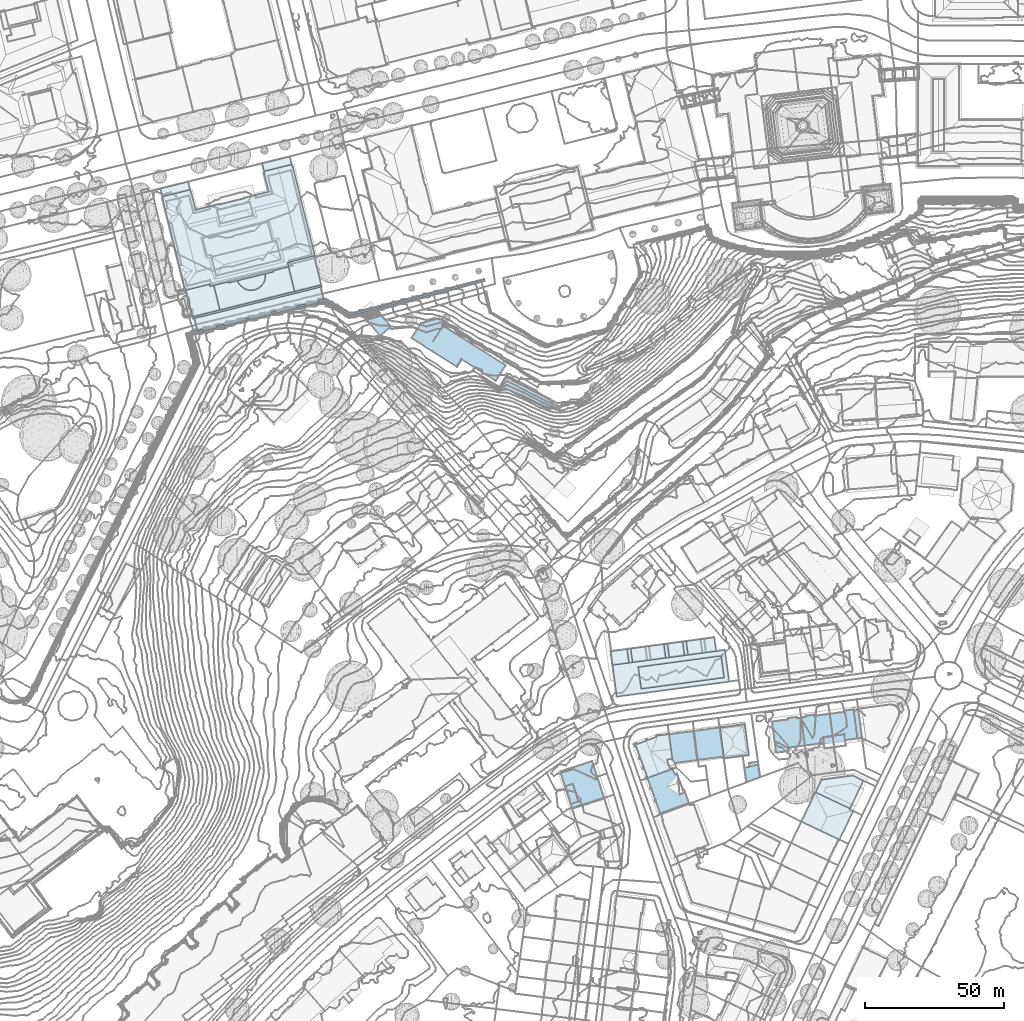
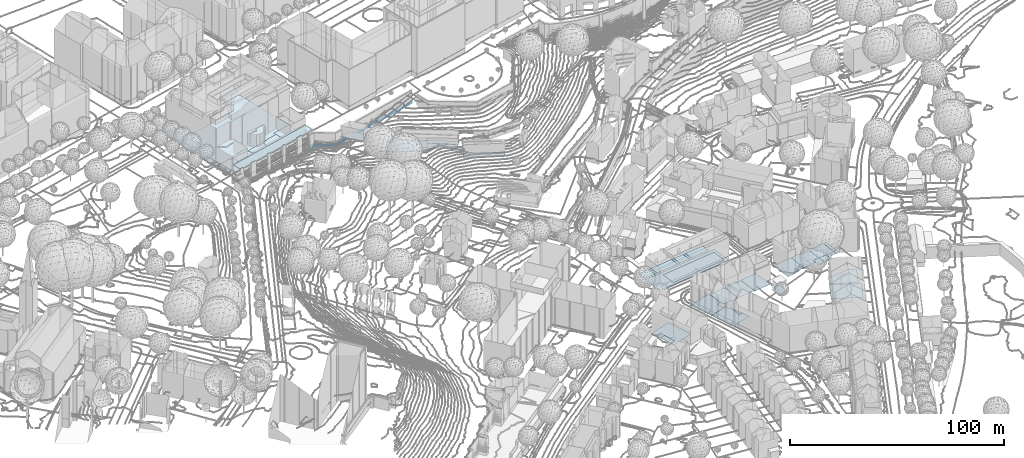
# Not in any storey, part 13 of 477: 17 footings.
"""IFC4 building model written with IfcOpenShell, lengths in metres."""

from ifc_helpers import new_model, si_unit, frame, origin_with_axes, place, context, subcontext, project, spatial, polygons, element, save


model = new_model("IFC4")

# Units and contexts
model_context = context("Model", 3, precision=1e-05, world=origin_with_axes())
body_context = subcontext(model_context, "Body", "Model", "MODEL_VIEW")
ifc_project = project(units=[si_unit("AREAUNIT", "SQUARE_METRE"), si_unit("LENGTHUNIT", "METRE")], contexts=[model_context])

# Sites, building
site_1_placement = place(None, origin_with_axes())
site_1 = spatial("IfcSite", under=ifc_project, at=site_1_placement, Name="Topoexport Site")
site_2_placement = place(site_1_placement, origin_with_axes())
site_2 = spatial("IfcSite", under=site_1, at=site_2_placement, Name="TPX_BUILDINGS")
building_1_placement = place(site_2_placement, frame((211.8297320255, 101.9383160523, 526.7541), z_axis=(0.0, 0.0, 1.0), x_axis=(1.0, 0.0, 0.0)))
building_1 = spatial("IfcBuilding", under=site_2, at=building_1_placement, Name="Building 18", CompositionType="ELEMENT")

# Footing
footing_1_placement = place(None, frame((211.8297320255, 101.9383160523, 526.7541), z_axis=(0.0, 0.0, 1.0), x_axis=(1.0, 0.0, 0.0)))
element("IfcFooting", 1, at=footing_1_placement, inside=building_1, Name="Floor 24", context=body_context, shape_type="Tessellation", body=[
    polygons([(157.3320000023, 217.1259999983, 6.3936), (169.6170000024, 220.9891999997, 6.3936), (205.8740000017, 229.5947000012, 6.3935), (205.7030000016, 230.2597000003, 6.3935), (157.4409999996, 217.8623000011, 6.3936), (148.7010000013, 222.3691000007, 6.3936), (148.6390000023, 223.2098999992, 6.3936), (146.1469999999, 221.753899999, 6.3936), (147.700000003, 222.9774999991, 6.3936), (145.9510000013, 222.5439000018, 6.3936)], [[[1, 2, 3]], [[4, 3, 2]], [[2, 1, 5]], [[5, 6, 7]], [[8, 9, 6]], [[5, 1, 6]], [[7, 6, 9]], [[9, 8, 10]]]),
])

# Building
building_2_placement = place(site_2_placement, frame((511.1767320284, 156.3465160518, 499.6435), z_axis=(0.0, 0.0, 1.0), x_axis=(1.0, 0.0, 0.0)))
building_2 = spatial("IfcBuilding", under=site_2, at=building_2_placement, Name="Building 19", CompositionType="ELEMENT")

# Footing
footing_2_placement = place(None, frame((511.1767320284, 156.3465160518, 499.6435), z_axis=(0.0, 0.0, 1.0), x_axis=(1.0, 0.0, 0.0)))
element("IfcFooting", 2, at=footing_2_placement, inside=building_2, Name="Floor 0", context=body_context, shape_type="Tessellation", body=[
    polygons([(4.936999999, 0.9834000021, 0.0), (1.8829999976, 0.2714999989, 0.0), (1.8469999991, 0.5243999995, 0.0), (4.7589999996, 2.067400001, 0.0), (1.8449999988, 0.5322000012, 0.0), (1.6939999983, 1.5859000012, 0.0), (5.5879999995, -3.4745999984, 0.0), (0.7419999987, -5.1475000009, 0.0), (0.0, 0.0, 0.0), (1.3649999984, -5.058600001, 0.0)], [[[1, 2, 3]], [[4, 5, 6]], [[5, 4, 1]], [[5, 1, 3]], [[7, 2, 1]], [[8, 9, 10]], [[2, 10, 9]], [[2, 7, 10]]]),
])

# Building
building_3_placement = place(site_2_placement, frame((541.9047320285, 175.7068160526, 499.9965), z_axis=(0.0, 0.0, 1.0), x_axis=(1.0, 0.0, 0.0)))
building_3 = spatial("IfcBuilding", under=site_2, at=building_3_placement, Name="Building 34", CompositionType="ELEMENT")

# Footing
footing_3_placement = place(None, frame((541.9047320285, 175.7068160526, 499.9965), z_axis=(0.0, 0.0, 1.0), x_axis=(1.0, 0.0, 0.0)))
element("IfcFooting", 3, at=footing_3_placement, inside=building_3, Name="Floor 0", context=body_context, shape_type="Tessellation", body=[
    polygons([(5.7719999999, -11.4081999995, -0.055), (1.057, -7.9266999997, -0.055), (5.231999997, -7.3680999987, -0.055), (1.5959999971, -11.9668000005, -0.055), (7.068, 1.4023999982, 0.0), (9.9579999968, -8.871100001, 0.0), (5.231999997, -7.3680999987, 0.0), (5.6139999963, 0.7481000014, 0.0), (8.5829999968, 1.6055000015, 0.0), (5.5539999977, 1.1992999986, 0.0), (5.5289999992, -9.4618999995, 0.0), (5.5399999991, -9.6748000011, 0.0), (2.8939999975, 0.3858000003, 0.0), (0.6689999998, -5.0166000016, 0.0), (0.0, 0.0, 0.0), (1.057, -7.9266999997, 0.0), (5.557, -9.6728000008, 0.0), (9.9580999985, -8.8709999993, -0.078), (8.5830999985, 1.6055000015, -0.0781), (8.6780999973, 1.1552999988, -0.0781), (10.2219999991, 1.8262000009, -0.078), (9.9959999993, 1.3321000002, -0.078), (11.6259999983, -8.6484000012, -0.078), (11.5799999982, -8.308600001, -0.078), (9.2049999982, 1.2256000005, -0.078), (8.6169999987, 1.6114000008, -0.078), (9.9729999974, 1.5058999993, -0.078), (9.9349999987, 1.7881000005, -0.078)], [[[1, 2, 3]], [[2, 1, 4]], [[5, 6, 7]], [[7, 8, 5]], [[9, 6, 5]], [[5, 8, 10]], [[6, 11, 7]], [[7, 11, 12]], [[13, 8, 7]], [[7, 14, 13]], [[15, 13, 14]], [[16, 14, 7]], [[11, 17, 12]], [[18, 19, 20]], [[21, 18, 22]], [[23, 18, 24]], [[18, 21, 24]], [[18, 20, 25]], [[20, 19, 26]], [[21, 27, 28]], [[21, 22, 27]], [[22, 18, 25]]]),
])

# Building
building_4_placement = place(site_2_placement, frame((531.628732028, 174.3367160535, 499.9965), z_axis=(0.0, 0.0, 1.0), x_axis=(1.0, 0.0, 0.0)))
building_4 = spatial("IfcBuilding", under=site_2, at=building_4_placement, Name="Building 35", CompositionType="ELEMENT")

# Footing
footing_4_placement = place(None, frame((531.628732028, 174.3367160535, 499.9965), z_axis=(0.0, 0.0, 1.0), x_axis=(1.0, 0.0, 0.0)))
element("IfcFooting", 4, at=footing_4_placement, inside=building_4, Name="Floor 0", context=body_context, shape_type="Tessellation", body=[
    polygons([(8.1779999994, -9.3271000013, 0.0), (7.4199999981, -9.2099000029, 0.0), (7.868999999, -7.0195000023, 0.0), (7.4489999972, -9.4248000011, 0.0), (4.117999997, -9.6504000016, 0.0), (10.2760000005, 1.370099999, 0.0), (4.6849999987, 0.623999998, 0.0), (11.3330000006, -6.5566000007, 0.0), (0.6779999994, -5.0175999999, 0.0), (1.3530000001, -10.0175999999, 0.0), (1.5920000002, 0.2118999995, 0.0), (4.6229999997, 1.0898999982, 0.0), (1.5299999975, 0.6777999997, 0.0), (0.0, 0.0, 0.0), (8.4100000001, -11.0595999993, -0.055), (7.868999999, -7.0195000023, -0.055), (11.8719999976, -10.5967000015, -0.055), (11.3330000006, -6.5566000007, -0.055)], [[[1, 2, 3]], [[2, 1, 4]], [[3, 2, 5]], [[6, 3, 7]], [[8, 3, 6]], [[9, 5, 10]], [[7, 3, 9]], [[7, 11, 12]], [[13, 12, 11]], [[11, 9, 14]], [[9, 11, 7]], [[3, 5, 9]], [[15, 16, 17]], [[18, 17, 16]]]),
])

# Building
building_5_placement = place(site_2_placement, frame((521.1327320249, 172.9256160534, 499.9965), z_axis=(0.0, 0.0, 1.0), x_axis=(1.0, 0.0, 0.0)))
building_5 = spatial("IfcBuilding", under=site_2, at=building_5_placement, Name="Building 36", CompositionType="ELEMENT")

# Footing
footing_5_placement = place(None, frame((521.1327320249, 172.9256160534, 499.9965), z_axis=(0.0, 0.0, 1.0), x_axis=(1.0, 0.0, 0.0)))
element("IfcFooting", 5, at=footing_5_placement, inside=building_5, Name="Floor 0", context=body_context, shape_type="Tessellation", body=[
    polygons([(10.0990000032, 1.3583999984, 0.0), (11.1740000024, -3.6064999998, 0.0), (8.9310000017, 1.2011999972, 0.0), (5.8390000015, 0.7850999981, 0.0), (8.870000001, 1.6561999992, 0.0), (5.7780000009, 1.2412, 0.0), (0.0, 0.0, 0.0), (5.7040000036, -9.4326000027, 0.0), (10.4960000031, 1.4111000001, 0.0), (1.325000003, -9.9365000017, 0.0), (6.6170000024, -9.3095999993, 0.0), (11.8490000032, -8.6064999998, 0.0), (5.8660000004, -10.6377000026, 0.0), (1.4970000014, -11.2217000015, 0.0), (5.7130000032, -9.5020000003, 0.0)], [[[1, 2, 3]], [[3, 2, 4]], [[5, 4, 6]], [[7, 4, 8]], [[3, 4, 5]], [[2, 1, 9]], [[10, 7, 8]], [[11, 8, 4]], [[11, 2, 12]], [[13, 14, 15]], [[14, 10, 15]], [[15, 10, 8]], [[2, 11, 4]]]),
])

# Building
building_6_placement = place(site_2_placement, frame((444.9497320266, 154.9236160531, 498.9646), z_axis=(0.0, 0.0, 1.0), x_axis=(1.0, 0.0, 0.0)))
building_6 = spatial("IfcBuilding", under=site_2, at=building_6_placement, Name="Building 70", CompositionType="ELEMENT")

# Footing
footing_6_placement = place(None, frame((444.9497320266, 154.9236160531, 498.9646), z_axis=(0.0, 0.0, 1.0), x_axis=(1.0, 0.0, 0.0)))
element("IfcFooting", 6, at=footing_6_placement, inside=building_6, Name="Floor 0", context=body_context, shape_type="Tessellation", body=[
    polygons([(11.2199999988, 3.7080000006, 0.0), (15.7390000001, -9.4306000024, 0.0), (4.5199999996, -4.4131000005, 0.0), (5.813000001, 1.9208999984, 0.0), (0.4070000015, 0.1338, 0.0), (1.8170000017, -5.2655999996, 0.0), (0.0, 0.0, 0.0), (3.8170000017, -11.6053999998, 0.0), (4.2390000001, -13.3515000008, 0.0), (11.4510000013, 3.7851999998, 0.0), (6.5199999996, -10.753899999, 0.0), (10.0920000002, -11.5058000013, 0.0), (10.0529999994, -11.5175000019, 0.0), (4.6229999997, -13.2303999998, 0.0), (15.4829999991, -9.8066000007, 0.0), (15.824000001, -9.6992000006, 0.0), (4.5199999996, -4.4131000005, -0.083), (6.5199999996, -10.753899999, -0.083), (1.8170000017, -5.2655999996, -0.083), (3.8170000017, -11.6053999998, -0.083)], [[[1, 2, 3]], [[1, 3, 4]], [[5, 4, 3]], [[3, 6, 5]], [[7, 5, 6]], [[6, 8, 7]], [[8, 9, 7]], [[1, 10, 2]], [[11, 12, 13]], [[3, 12, 11]], [[13, 14, 11]], [[15, 12, 2]], [[2, 16, 15]], [[14, 9, 8]], [[8, 11, 14]], [[2, 12, 3]], [[17, 18, 19]], [[19, 18, 20]]]),
])

# Building
building_7_placement = place(site_2_placement, frame((463.0307320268, 198.249816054, 500.4205), z_axis=(0.0, 0.0, 1.0), x_axis=(1.0, 0.0, 0.0)))
building_7 = spatial("IfcBuilding", under=site_2, at=building_7_placement, Name="Building 89", CompositionType="ELEMENT")

# Footing
footing_7_placement = place(None, frame((463.0307320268, 198.249816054, 500.4205), z_axis=(0.0, 0.0, 1.0), x_axis=(1.0, 0.0, 0.0)))
element("IfcFooting", 7, at=footing_7_placement, inside=building_7, Name="Floor 0", context=body_context, shape_type="Tessellation", body=[
    polygons([(40.8319999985, -9.4853000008, -0.6149), (39.7729999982, -1.6601999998, -0.6149), (42.6259999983, -10.9238000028, -0.615), (10.9860000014, -13.5215000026, -0.6149), (0.6629999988, -4.9492000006, -0.6149), (41.1009999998, 0.4667999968, -0.6149), (2.1889999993, -16.3369000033, -0.6149), (9.9279999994, -5.6982000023, -0.6149), (13.8040000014, 1.8524999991, 0.0), (19.8000000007, -2.3857000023, 0.0), (14.4679999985, -3.1006000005, 0.0), (19.1369999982, 2.5683999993, 0.0), (0.0, 0.0, 0.0), (5.9239999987, 0.7949000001, 0.0), (0.6629999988, -4.9492000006, 0.0), (6.5870000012, -4.1562000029, 0.0), (6.5870000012, -4.1562000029, -0.041), (5.9239999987, 0.7949000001, -0.041), (7.8759999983, -3.9834000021, -0.041), (7.2129999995, 0.9677999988, -0.041), (7.2129999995, 0.9677999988, 0.0), (13.1790000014, -3.2734000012, 0.0), (7.8759999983, -3.9834000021, 0.0), (12.5159999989, 1.6796999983, 0.0), (13.1790000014, -3.2734000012, -0.011), (12.5159999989, 1.6796999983, -0.011), (14.4679999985, -3.1006000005, -0.011), (13.8040000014, 1.8524999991, -0.011), (40.8319999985, -9.4853000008, -0.6539), (9.9279999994, -5.6982000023, -0.6539), (39.7729999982, -1.6601999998, -0.6539), (10.9860000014, -13.5215000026, -0.6539), (27.1909999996, 3.6483999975, 0.0), (37.300999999, 5.0058999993, 0.0), (27.8550000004, -1.3066000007, 0.0), (37.9649999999, 0.0468999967, 0.0), (27.1909999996, 3.6483999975, -0.056), (27.8550000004, -1.3066000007, -0.056), (25.9030000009, 3.4755999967, -0.056), (26.5670000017, -1.4805000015, -0.056), (20.425999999, 2.7412, 0.0), (26.5670000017, -1.4805000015, 0.0), (21.0890000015, -2.2129000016, 0.0), (25.9030000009, 3.4755999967, 0.0), (20.425999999, 2.7412, -0.046), (19.8000000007, -2.3857000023, -0.046), (19.1369999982, 2.5683999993, -0.046), (21.0890000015, -2.2129000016, -0.046)], [[[1, 2, 3]], [[3, 4, 1]], [[2, 5, 6]], [[6, 3, 2]], [[7, 8, 4]], [[4, 3, 7]], [[2, 8, 5]], [[8, 7, 5]], [[9, 10, 11]], [[10, 9, 12]], [[13, 14, 15]], [[16, 15, 14]], [[17, 18, 19]], [[20, 19, 18]], [[21, 22, 23]], [[22, 21, 24]], [[25, 26, 27]], [[28, 27, 26]], [[29, 30, 31]], [[30, 29, 32]], [[33, 34, 35]], [[36, 35, 34]], [[37, 38, 39]], [[40, 39, 38]], [[41, 42, 43]], [[42, 41, 44]], [[45, 46, 47]], [[46, 45, 48]]]),
])

# Building
building_8_placement = place(site_2_placement, frame((423.4767320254, 293.5516160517, 522.4066), z_axis=(0.0, 0.0, 1.0), x_axis=(1.0, 0.0, 0.0)))
building_8 = spatial("IfcBuilding", under=site_2, at=building_8_placement, Name="Building 104", CompositionType="ELEMENT")

# Footing
footing_8_placement = place(None, frame((423.4767320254, 293.5516160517, 522.4066), z_axis=(0.0, 0.0, 1.0), x_axis=(1.0, 0.0, 0.0)))
element("IfcFooting", 8, at=footing_8_placement, inside=building_8, Name="Floor 0", context=body_context, shape_type="Tessellation", body=[
    polygons([(17.6070000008, -8.4765999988, 0.0), (18.2609999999, -5.2245999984, 0.0), (18.9730000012, -5.6679999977, 0.0), (17.5970000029, -4.7608000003, 0.0), (13.950000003, -2.7333999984, 0.0), (16.2400000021, -3.9208999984, 0.0), (17.6620000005, -4.6279999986, 0.0), (0.0, 0.0, 0.0), (1.9079999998, 3.9648000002, 0.0), (13.1080000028, -1.6152999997, 0.0)], [[[1, 2, 3]], [[4, 2, 5]], [[4, 6, 7]], [[1, 5, 2]], [[5, 6, 4]], [[1, 8, 5]], [[9, 10, 5]], [[5, 8, 9]]]),
])

# Building
building_9_placement = place(site_2_placement, frame((300.9637320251, 364.7801160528, 537.8963), z_axis=(0.0, 0.0, 1.0), x_axis=(1.0, 0.0, 0.0)))
building_9 = spatial("IfcBuilding", under=site_2, at=building_9_placement, Name="Building 118", CompositionType="ELEMENT")

# Footing
footing_9_placement = place(None, frame((300.9637320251, 364.7801160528, 537.8963), z_axis=(0.0, 0.0, 1.0), x_axis=(1.0, 0.0, 0.0)))
element("IfcFooting", 9, at=footing_9_placement, inside=building_9, Name="Floor 0", context=body_context, shape_type="Tessellation", body=[
    polygons([(20.1130000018, -49.3916000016, -6.4714), (22.8430000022, -48.7158000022, -6.4714), (20.2660000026, -50.0067999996, -6.4714), (22.9970000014, -49.3379000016, -6.4714), (17.6770000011, -34.4316999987, -1.2229), (17.8630000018, -35.182599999, -1.2229), (9.1720000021, -36.5390999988, -1.2229), (21.4079999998, -43.6601999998, -1.2229), (11.568, -46.0986000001, -1.2229), (19.2240000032, -34.8456999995, -1.2229), (29.0160000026, -35.1084000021, -1.2769), (28.443, -34.4268000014, -1.2769), (37.6600000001, -32.3828000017, -1.2769), (37.4299999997, -33.2432000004, -1.2769), (30.074000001, -35.9199000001, -1.2769), (37.7380000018, -31.495099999, -1.2769), (27.9980000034, -33.6552999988, -1.2769), (31.7410000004, -36.5274000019, -1.2769), (30.881000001, -36.2978999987, -1.2769), (36.2420000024, -35.1084000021, -1.2769), (32.6290000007, -36.6055000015, -1.2769), (35.5590000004, -35.6816999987, -1.2769), (37.0540000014, -34.0507999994, -1.2769), (27.7990000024, -33.1084000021, -1.2769), (37.6650000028, -30.6640999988, -1.2769), (34.376000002, -36.2978999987, -1.2769), (33.5160000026, -36.5274000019, -1.2769), (24.5450000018, -33.5263999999, -1.1589), (24.6359999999, -33.8925999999, -1.1589), (19.2240000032, -34.8456999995, -1.1589), (28.443, -34.4268000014, -1.1589), (27.9980000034, -33.6552999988, -1.1589), (27.7990000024, -33.1084000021, -1.1589), (29.0160000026, -35.1084000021, -1.1589), (30.074000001, -35.9199000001, -1.1589), (21.4079999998, -43.6601999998, -1.1589), (30.881000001, -36.2978999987, -1.1589), (32.6290000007, -36.6055000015, -1.1589), (31.7410000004, -36.5274000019, -1.1589), (33.5160000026, -36.5274000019, -1.1589), (37.6650000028, -30.6640999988, -1.1589), (40.7200000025, -29.9072000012, -1.1589), (37.7380000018, -31.495099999, -1.1589), (46.1230000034, -28.1807000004, -1.1589), (37.6600000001, -32.3828000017, -1.1589), (40.6290000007, -29.5410000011, -1.1589), (37.4299999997, -33.2432000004, -1.1589), (35.5590000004, -35.6816999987, -1.1589), (48.307, -36.9941999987, -1.159), (34.376000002, -36.2978999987, -1.1589), (37.0540000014, -34.0507999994, -1.1589), (36.2420000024, -35.1084000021, -1.1589), (47.5240000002, 7.6875, -1.3419), (42.375, 7.4697000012, -1.3419), (47.2730000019, 8.683600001, -1.3419), (37.318, 6.2168000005, -1.3419), (37.5710000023, 5.1942999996, -1.3419), (38.9700000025, -1.1581999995, -1.3419), (38.8990000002, -0.870099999, -1.3419), (37.4010000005, 5.1552999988, -1.3419), (47.6920000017, 7.7285000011, -1.3419), (55.3100000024, -24.2030999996, -1.3419), (5.6190000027, -1.6376999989, -1.3418), (12.6469999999, -7.6621000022, -1.3419), (0.9510000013, -3.8330000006, -1.3418), (0.7080000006, -2.8544999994, -1.3418), (10.6750000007, -0.3858000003, -1.3418), (10.9240000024, -1.3925999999, -1.3419), (8.814000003, -36.1044999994, -1.3419), (0.7870000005, -3.8740000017, -1.3418), (12.5890000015, -7.4287, -1.3419), (11.0780000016, -1.3526000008, -1.3419), (9.0480000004, -36.0498000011, -1.3419), (21.318, -5.7001999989, -1.3419), (21.2770000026, -5.5459000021, -1.3419), (45.7240000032, -26.5703000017, -1.3419), (40.6290000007, -29.5410000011, -1.3419), (55.6980000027, -24.5331999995, -1.3419), (55.4079999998, -24.6026000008, -1.3419), (46.1230000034, -28.1807000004, -1.3419), (40.7200000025, -29.9072000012, -1.3419), (24.6359999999, -33.8925999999, -1.3419), (30.3940000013, -3.4512000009, -1.3419), (30.3570000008, -3.3018000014, -1.3419), (17.6770000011, -34.4316999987, -1.3419), (24.5450000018, -33.5263999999, -1.3419), (9.1710000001, -36.5390000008, -1.3419), (17.8630000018, -35.182599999, -1.3419), (47.2730000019, 8.683600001, 0.7599), (42.375, 7.4697000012, 0.7599), (46.5520000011, 11.5449000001, 0.7599), (37.318, 6.2168000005, 0.7599), (36.6130000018, 9.0566000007, 0.7599), (0.0, 0.0, 0.0), (5.6190000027, -1.6376999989, 0.0), (0.7080000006, -2.8544999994, 0.0), (9.9670000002, 2.4765000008, 0.0), (10.6750000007, -0.3858000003, 0.0), (48.307, -36.9941999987, -1.4109), (55.3100000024, -24.2030999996, -1.4109), (57.8670000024, -34.625, -1.4109), (45.7240000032, -26.5703000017, -1.4109), (58.0370000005, -35.316399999, 4.4505), (58.0490000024, -35.3662, 4.4505), (57.6660000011, -35.4618999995, 4.4505), (12.2490000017, -46.6631000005, 4.4505), (41.501000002, -44.8115000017, 4.4505), (41.3330000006, -44.1338, 4.4505), (49.0950000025, -42.2100000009, 4.4505), (39.9640000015, -44.4736000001, 4.4505), (32.0270000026, -46.4395000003, 4.4505), (51.9470000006, -41.503899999, 4.4505), (56.8170000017, -40.2978999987, 4.4505), (58.7060000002, -39.8291000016, 4.4505), (56.9960000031, -41.0205000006, 4.4505), (52.1220000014, -42.2118999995, 4.4505), (49.2690000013, -42.9101999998, 4.4505), (22.8430000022, -48.7158000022, 4.4505), (30.6230000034, -46.7871000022, 4.4505), (20.1130000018, -49.3916000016, 4.4505), (15.2039999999, -50.6074000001, 4.4505), (13.3270000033, -51.072300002, 4.4505), (15.3530000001, -51.2080000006, 4.4505), (32.188000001, -47.0899000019, 4.4505), (40.131000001, -45.1464999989, 4.4505), (20.2660000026, -50.0067999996, 4.4505), (22.9970000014, -49.3379000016, 4.4505), (30.7829999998, -47.433600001, 4.4505), (30.6230000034, -46.7871000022, -6.4714), (32.0270000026, -46.4395000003, -6.4714), (30.7829999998, -47.433600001, -6.4714), (32.188000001, -47.0899000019, -6.4714), (13.3320000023, -51.0713, -6.4714), (15.2039999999, -50.6074000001, -6.4714), (13.4780000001, -51.6669999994, -6.4714), (15.3530000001, -51.2080000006, -6.4714), (11.7280000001, -46.7373000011, -6.4714), (11.568, -46.0986000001, -6.4714), (57.8670000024, -34.625, -6.4714), (58.0370000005, -35.316399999, -6.4714), (12.2380000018, -46.6172000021, -6.4714), (12.2490000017, -46.6631000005, -6.4714), (39.9640000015, -44.4736000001, -6.4714), (41.3330000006, -44.1338, -6.4714), (40.131000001, -45.1464999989, -6.4714), (41.501000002, -44.8115000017, -6.4714), (56.8170000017, -40.2978999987, -6.4715), (58.0329999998, -40.7666000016, -6.4715), (56.9960000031, -41.0205000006, -6.4715), (58.7060000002, -39.8291000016, -6.4715), (58.8509999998, -40.4404000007, -6.4715), (49.0950000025, -42.2100000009, -6.4714), (51.9470000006, -41.503899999, -6.4715), (49.2690000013, -42.9101999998, -6.4715), (52.1220000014, -42.2118999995, -6.4715)], [[[1, 2, 3]], [[4, 3, 2]], [[5, 6, 7]], [[8, 9, 6]], [[6, 10, 8]], [[9, 7, 6]], [[11, 12, 13]], [[14, 15, 11]], [[16, 12, 17]], [[18, 19, 20]], [[21, 18, 22]], [[19, 15, 23]], [[24, 25, 17]], [[11, 13, 14]], [[13, 12, 16]], [[23, 15, 14]], [[21, 26, 27]], [[26, 21, 22]], [[20, 22, 18]], [[20, 19, 23]], [[17, 25, 16]], [[28, 29, 30]], [[29, 31, 30]], [[31, 29, 32]], [[32, 29, 33]], [[31, 34, 30]], [[35, 36, 30]], [[30, 34, 35]], [[35, 37, 36]], [[38, 36, 39]], [[39, 36, 37]], [[38, 40, 36]], [[41, 42, 43]], [[43, 44, 45]], [[44, 42, 46]], [[44, 43, 42]], [[44, 47, 45]], [[48, 49, 50]], [[50, 49, 40]], [[44, 51, 47]], [[49, 48, 52]], [[52, 51, 49]], [[49, 51, 44]], [[49, 36, 40]], [[53, 54, 55]], [[56, 54, 57]], [[54, 58, 59]], [[59, 57, 54]], [[60, 57, 59]], [[61, 62, 53]], [[54, 53, 58]], [[63, 64, 65]], [[66, 63, 65]], [[67, 68, 63]], [[69, 70, 65]], [[71, 63, 68]], [[72, 71, 68]], [[64, 63, 71]], [[64, 73, 65]], [[74, 64, 75]], [[58, 53, 62]], [[76, 77, 58]], [[58, 62, 76]], [[78, 79, 62]], [[61, 78, 62]], [[76, 80, 77]], [[81, 82, 77]], [[77, 83, 58]], [[84, 58, 83]], [[69, 65, 73]], [[64, 85, 73]], [[86, 64, 74]], [[83, 86, 74]], [[83, 77, 86]], [[87, 73, 85]], [[85, 86, 88]], [[64, 86, 85]], [[82, 86, 77]], [[89, 90, 91]], [[92, 93, 90]], [[93, 91, 90]], [[94, 95, 96]], [[97, 98, 95]], [[95, 94, 97]], [[99, 100, 101]], [[100, 99, 102]], [[103, 104, 105]], [[105, 106, 103]], [[107, 108, 109]], [[108, 105, 109]], [[110, 105, 108]], [[105, 110, 111]], [[112, 109, 105]], [[113, 105, 114]], [[115, 116, 113]], [[117, 107, 109]], [[112, 113, 116]], [[113, 112, 105]], [[118, 106, 119]], [[106, 111, 119]], [[118, 120, 106]], [[121, 122, 106]], [[106, 120, 121]], [[120, 123, 121]], [[110, 124, 111]], [[110, 125, 124]], [[126, 123, 120]], [[127, 119, 128]], [[127, 118, 119]], [[111, 106, 105]], [[129, 130, 131]], [[132, 131, 130]], [[133, 134, 135]], [[136, 135, 134]], [[137, 138, 139]], [[140, 141, 137]], [[137, 139, 140]], [[140, 142, 141]], [[143, 144, 145]], [[146, 145, 144]], [[147, 148, 149]], [[150, 151, 148]], [[148, 147, 150]], [[152, 153, 154]], [[155, 154, 153]]]),
])

# Building
building_10_placement = place(site_2_placement, frame((372.7347320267, 320.7049160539, 536.4583), z_axis=(0.0, 0.0, 1.0), x_axis=(1.0, 0.0, 0.0)))
building_10 = spatial("IfcBuilding", under=site_2, at=building_10_placement, Name="Building 119", CompositionType="ELEMENT")

# Footing
footing_10_placement = place(None, frame((372.7347320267, 320.7049160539, 536.4583), z_axis=(0.0, 0.0, 1.0), x_axis=(1.0, 0.0, 0.0)))
element("IfcFooting", 10, at=footing_10_placement, inside=building_10, Name="Floor 0", context=body_context, shape_type="Tessellation", body=[
    polygons([(7.2490000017, -8.8623000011, 0.0), (5.6700000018, 1.2665999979, 0.0), (11.254999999, -5.577200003, 0.0), (0.0, 0.0, 0.0)], [[[1, 2, 3]], [[2, 1, 4]]]),
])

# Building
building_11_placement = place(site_2_placement, frame((391.3277320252, 310.9148160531, 527.1172), z_axis=(0.0, 0.0, 1.0), x_axis=(1.0, 0.0, 0.0)))
building_11 = spatial("IfcBuilding", under=site_2, at=building_11_placement, Name="Building 120", CompositionType="ELEMENT")

# Footing
footing_11_placement = place(None, frame((391.3277320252, 310.9148160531, 527.1172), z_axis=(0.0, 0.0, 1.0), x_axis=(1.0, 0.0, 0.0)))
element("IfcFooting", 11, at=footing_11_placement, inside=building_11, Name="Floor 0", context=body_context, shape_type="Tessellation", body=[
    polygons([(18.0890000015, -7.6561999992, 0.0), (31.2369999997, -13.9023000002, 0.0), (30.3090000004, -15.3720000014, 0.0), (16.3900000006, -10.3465999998, 0.0), (0.9010000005, 1.4267999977, 0.0), (32.0840000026, -12.5615000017, 0.0), (32.9730000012, -11.1543000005, 0.0), (11.2880000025, 4.4638999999, 0.0), (33.8420000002, -9.7773000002, 0.0), (1.700000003, 2.6915000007, 0.0), (3.4290000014, 5.433600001, 0.0), (4.3859999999, 5.6865999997, 0.0), (8.2710000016, 6.7128999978, 0.0), (12.0410000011, 5.6563000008, 0.0), (9.9020000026, 7.1435999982, 0.0), (0.0, 0.0, 0.0)], [[[1, 2, 3]], [[4, 5, 1]], [[6, 1, 7]], [[1, 6, 2]], [[8, 9, 7]], [[1, 8, 7]], [[1, 5, 10]], [[1, 10, 11]], [[1, 11, 12]], [[8, 13, 14]], [[15, 14, 13]], [[13, 8, 12]], [[12, 8, 1]], [[16, 5, 4]]]),
])

# Building
building_12_placement = place(site_2_placement, frame((531.6427320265, 136.9305160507, 499.2035), z_axis=(0.0, 0.0, 1.0), x_axis=(1.0, 0.0, 0.0)))
building_12 = spatial("IfcBuilding", under=site_2, at=building_12_placement, Name="Building 123", CompositionType="ELEMENT")

# Footing
footing_12_placement = place(None, frame((531.6427320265, 136.9305160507, 499.2035), z_axis=(0.0, 0.0, 1.0), x_axis=(1.0, 0.0, 0.0)))
element("IfcFooting", 12, at=footing_12_placement, inside=building_12, Name="Floor 0", context=body_context, shape_type="Tessellation", body=[
    polygons([(17.4730000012, 4.6709000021, 0.363), (18.4140000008, 16.5771000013, 0.363), (22.307, 14.7080000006, 0.363), (7.2760000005, 15.0781000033, 0.363), (5.0969999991, 10.5166000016, 0.363), (4.936999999, 10.1816000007, 0.0), (17.3390000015, 4.3935000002, 0.0), (6.9820000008, -3.3290999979, 0.0), (0.0, 0.0, 0.0), (4.8920000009, 10.2031000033, 0.0), (5.6290000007, -2.6835999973, 0.0), (5.0969999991, 10.5166000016, 0.0), (18.6440000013, 3.7666000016, 0.0), (13.699000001, -6.5322999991, 0.0), (17.4730000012, 4.6709000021, 0.0)], [[[1, 2, 3]], [[4, 2, 1]], [[1, 5, 4]], [[6, 7, 8]], [[6, 9, 10]], [[9, 6, 11]], [[11, 6, 8]], [[12, 7, 6]], [[13, 14, 7]], [[14, 8, 7]], [[12, 15, 7]]]),
])

# Building
building_13_placement = place(site_2_placement, frame((475.9607320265, 152.5359160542, 499.4976), z_axis=(0.0, 0.0, 1.0), x_axis=(1.0, 0.0, 0.0)))
building_13 = spatial("IfcBuilding", under=site_2, at=building_13_placement, Name="Building 127", CompositionType="ELEMENT")

# Footing
footing_13_placement = place(None, frame((475.9607320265, 152.5359160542, 499.4976), z_axis=(0.0, 0.0, 1.0), x_axis=(1.0, 0.0, 0.0)))
element("IfcFooting", 13, at=footing_13_placement, inside=building_13, Name="Floor 0", context=body_context, shape_type="Tessellation", body=[
    polygons([(8.3819999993, 3.0361999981, 0.0), (10.1799999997, 1.3242999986, 0.0), (6.4640000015, 2.3408999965, 0.0), (3.1640000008, -7.7363000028, -0.0001), (4.4210000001, 1.6005999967, 0.0), (9.4239999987, 3.4130999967, 0.0), (11.2809999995, 0.8017999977, 0.0), (10.5769999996, 1.4677999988, 0.0), (10.9860000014, 1.6162, 0.0), (1.7280000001, -3.7851000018, 0.0), (11.870000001, -5.8955000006, -0.0001), (1.7479999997, 0.6328999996, 0.0), (1.5159999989, -3.2021000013, 0.0), (0.4149999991, -0.1757000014, 0.0), (0.1050000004, -0.2890000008, 0.0), (0.0, 0.0, 0.0), (4.2050000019, 1.5224999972, 0.0), (1.4180000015, -3.8984000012, 0.0), (1.2060000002, -3.3154000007, 0.0), (15.0579999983, -8.9638000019, -0.0001), (13.8729999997, -5.0605000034, -0.0001), (15.3020000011, -8.875, -0.0001), (13.2730000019, -9.6113000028, -0.0001), (10.5179999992, -10.6123000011, -0.0001), (8.8150000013, -11.2343000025, -0.0001), (3.3900000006, -8.3584000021, -0.0001), (4.7390000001, -12.7187000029, -0.0001), (4.8859999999, -12.4658000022, -0.0001), (3.0800000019, -8.4716000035, -0.0001), (2.8570000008, -7.8486000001, -0.0001), (4.675999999, -12.5449000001, -0.0001), (13.1519999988, -4.3691000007, 0.0669), (13.8729999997, -5.0605000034, 0.0669), (11.870000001, -5.8955000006, 0.0669), (13.2010000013, -4.3515000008, 0.0669), (13.5419999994, -4.2285000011, 0.0669), (12.5850000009, -2.8017000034, 0.0669), (11.7259999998, -0.4287, 0.0669), (11.2809999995, 0.8017999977, 0.0669)], [[[1, 2, 3]], [[4, 5, 3]], [[1, 6, 2]], [[7, 8, 9]], [[8, 7, 2]], [[4, 10, 5]], [[2, 11, 3]], [[12, 13, 14]], [[14, 15, 16]], [[16, 12, 14]], [[17, 13, 12]], [[13, 18, 19]], [[13, 17, 10]], [[10, 18, 13]], [[5, 10, 17]], [[7, 11, 2]], [[20, 21, 22]], [[3, 11, 4]], [[21, 20, 11]], [[23, 11, 20]], [[11, 24, 25]], [[26, 11, 25]], [[25, 27, 28]], [[11, 23, 24]], [[25, 28, 26]], [[4, 29, 30]], [[4, 11, 26]], [[29, 4, 26]], [[28, 27, 31]], [[32, 33, 34]], [[35, 36, 33]], [[33, 32, 35]], [[37, 34, 38]], [[34, 37, 32]], [[39, 38, 34]]]),
])

# Building
building_14_placement = place(site_2_placement, frame((502.3847320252, 170.8484160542, 499.6645), z_axis=(0.0, 0.0, 1.0), x_axis=(1.0, 0.0, 0.0)))
building_14 = spatial("IfcBuilding", under=site_2, at=building_14_placement, Name="Building 128", CompositionType="ELEMENT")

# Footing
footing_14_placement = place(None, frame((502.3847320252, 170.8484160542, 499.6645), z_axis=(0.0, 0.0, 1.0), x_axis=(1.0, 0.0, 0.0)))
element("IfcFooting", 14, at=footing_14_placement, inside=building_14, Name="Floor 0", context=body_context, shape_type="Tessellation", body=[
    polygons([(10.3690000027, -9.8964000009, 0.0), (7.881000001, 1.0058999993, 0.0), (8.8770000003, 1.1435999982, 0.0), (2.6920000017, 0.2900999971, 0.0), (0.1700000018, 0.0244999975, 0.0), (0.1810000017, -0.0556000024, 0.0), (0.0, 0.0, 0.0), (0.0580000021, -0.4316000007, 0.0), (0.7130000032, -5.3320000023, 0.0), (8.0549999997, -10.2119000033, 0.0), (1.3839999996, -10.3593000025, 0.0), (1.4840000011, -11.1054000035, 0.0)], [[[1, 2, 3]], [[1, 4, 2]], [[5, 6, 7]], [[8, 6, 4]], [[8, 4, 9]], [[8, 7, 6]], [[9, 10, 11]], [[12, 11, 10]], [[1, 10, 9]], [[9, 4, 1]]]),
])

# Building
building_15_placement = place(site_2_placement, frame((484.0377320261, 168.4207160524, 499.5076), z_axis=(0.0, 0.0, 1.0), x_axis=(1.0, 0.0, 0.0)))
building_15 = spatial("IfcBuilding", under=site_2, at=building_15_placement, Name="Building 129", CompositionType="ELEMENT")

# Footing
footing_15_placement = place(None, frame((484.0377320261, 168.4207160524, 499.5076), z_axis=(0.0, 0.0, 1.0), x_axis=(1.0, 0.0, 0.0)))
element("IfcFooting", 15, at=footing_15_placement, inside=building_15, Name="Floor 0", context=body_context, shape_type="Tessellation", body=[
    polygons([(9.1400000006, -1.4560000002, 0.0), (6.7010000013, 0.8066000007, 0.0), (8.819000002, 1.0683999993, 0.0), (9.4840000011, -4.1561999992, 0.0), (9.8790000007, -7.2606999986, 0.0), (3.6469999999, -10.2197000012, 0.0), (6.0760000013, 0.7236000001, 0.0), (3.5210000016, 0.3856999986, 0.0), (0.7120000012, -5.3027000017, 0.0), (6.0659999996, 0.8027000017, 0.0), (6.6909999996, 0.8856999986, 0.0), (2.8949999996, 0.3027000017, 0.0), (3.5100000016, 0.4648000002, 0.0), (10.1469999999, -9.3623000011, 0.0), (2.1359999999, -10.4189000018, 0.0), (1.251000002, -9.3192999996, 0.0), (0.0, 0.0, 0.0), (0.3379999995, -0.0361000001, 0.0), (2.8850000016, 0.3817999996, 0.0), (0.3280000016, 0.0430000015, 0.0), (9.1700000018, -1.6893999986, 0.3679), (9.2309999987, -0.5683999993, 0.3679), (9.3680000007, -1.5967000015, 0.3679), (9.2120000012, -0.4219000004, 0.3679), (9.0109999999, 1.0918000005, 0.3679), (8.819000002, 1.0683999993, 0.3679)], [[[1, 2, 3]], [[4, 5, 6]], [[4, 7, 1]], [[8, 4, 9]], [[2, 10, 11]], [[2, 7, 10]], [[7, 4, 8]], [[8, 12, 13]], [[1, 7, 2]], [[14, 6, 5]], [[15, 16, 6]], [[12, 8, 9]], [[6, 16, 9]], [[9, 17, 18]], [[19, 13, 12]], [[9, 18, 12]], [[18, 17, 20]], [[4, 6, 9]], [[21, 22, 23]], [[21, 24, 22]], [[25, 24, 26]], [[26, 24, 21]]]),
])

# Building
building_16_placement = place(site_2_placement, frame((492.8567320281, 169.4891160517, 499.5076), z_axis=(0.0, 0.0, 1.0), x_axis=(1.0, 0.0, 0.0)))
building_16 = spatial("IfcBuilding", under=site_2, at=building_16_placement, Name="Building 130", CompositionType="ELEMENT")

# Footing
footing_16_placement = place(None, frame((492.8567320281, 169.4891160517, 499.5076), z_axis=(0.0, 0.0, 1.0), x_axis=(1.0, 0.0, 0.0)))
element("IfcFooting", 16, at=footing_16_placement, inside=building_16, Name="Floor 0", context=body_context, shape_type="Tessellation", body=[
    polygons([(8.8369999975, 1.1884000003, 0.0), (9.5859999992, 0.9277000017, 0.0), (10.2410000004, -3.9726999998, 0.0), (10.9119999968, -9.0, -0.0001), (10.5939999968, -9.2071000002, -0.0001), (10.6739999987, -9.7919999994, -0.0001), (11.0119999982, -9.746100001, -0.0001), (1.5719999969, -10.3984999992, 0.0), (5.6439999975, 0.7666000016, 0.0), (6.2479999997, 0.8465999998, 0.0), (8.8259999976, 1.2685000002, 0.0), (9.4109999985, 1.3436999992, 0.0), (9.5279999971, 1.3593000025, 0.0), (6.237999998, 0.9257000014, 0.0), (5.6339999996, 0.8456999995, 0.0), (0.3209999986, -2.5243999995, 0.0), (3.106999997, 0.4306000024, 0.0), (0.6649999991, -5.2245999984, 0.0), (0.1919999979, 0.0234000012, 0.0), (2.481999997, 0.3476000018, 0.0), (1.0599999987, -8.3290999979, 0.0), (1.3279999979, -10.4307000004, 0.0), (0.0, 0.0, 0.0), (2.4719999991, 0.4266999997, 0.0), (3.0969999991, 0.5097000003, 0.0)], [[[1, 2, 3]], [[4, 5, 3]], [[6, 5, 7]], [[8, 3, 5]], [[5, 4, 7]], [[9, 10, 3]], [[1, 11, 12]], [[13, 2, 12]], [[2, 1, 12]], [[14, 10, 15]], [[10, 9, 15]], [[10, 1, 3]], [[16, 17, 18]], [[16, 19, 20]], [[18, 8, 21]], [[18, 17, 8]], [[8, 22, 21]], [[16, 23, 19]], [[9, 8, 17]], [[17, 16, 20]], [[17, 20, 24]], [[24, 25, 17]], [[9, 3, 8]]]),
])

# Building
building_17_placement = place(site_2_placement, frame((471.492732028, 164.8240160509, 499.4976), z_axis=(0.0, 0.0, 1.0), x_axis=(1.0, 0.0, 0.0)))
building_17 = spatial("IfcBuilding", under=site_2, at=building_17_placement, Name="Building 131", CompositionType="ELEMENT")

# Footing
footing_17_placement = place(None, frame((471.492732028, 164.8240160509, 499.4976), z_axis=(0.0, 0.0, 1.0), x_axis=(1.0, 0.0, 0.0)))
element("IfcFooting", 17, at=footing_17_placement, inside=building_17, Name="Floor 0", context=body_context, shape_type="Tessellation", body=[
    polygons([(4.3579999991, -11.985299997, 0.0), (4.7249999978, -11.8524999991, 0.0), (4.4679999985, -12.2880999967, 0.0), (3.0529999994, -8.3954999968, 0.0), (3.6349999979, -8.8544999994, 0.0), (3.2679999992, -8.9872999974, 0.0), (12.2579999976, -7.7372999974, 0.0), (3.4189999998, -8.2626999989, 0.0), (6.1339999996, -2.6376999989, 0.0), (2.1099999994, -4.6620999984, 0.0), (2.3219999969, -5.245099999, 0.0), (1.9560000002, -5.3778999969, 0.0), (6.2159999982, -11.6551999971, 0.0), (10.932, -9.9472000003, 0.0), (8.8889999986, -10.6875, 0.0), (12.9519999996, -8.9178999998, 0.0), (12.8499999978, -9.2518999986, 0.0), (8.6730000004, -10.7655999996, 0.0), (13.8919999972, -8.875, 0.0), (12.5149999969, -7.7030999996, 0.0), (13.7969999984, -8.6122999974, 0.0), (0.674999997, -0.7137999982, 0.0), (1.743999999, -4.7949000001, 0.0), (0.0, 0.0, 0.0), (0.9829999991, -0.0301999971, 0.0), (0.3079999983, -0.8486000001, 0.0), (0.8499999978, 0.3203000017, 0.0), (4.2099999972, 1.188500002, 0.0), (4.8090000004, 1.4151000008, 0.0), (8.0359999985, 2.6328000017, 0.0), (4.2449999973, 1.6026000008, 0.0), (8.5969999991, 3.246100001, 0.0), (4.6769999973, 1.7657000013, 0.0), (4.0779999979, 1.5401000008, 0.0), (7.9039999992, 2.9834000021, 0.0), (11.7669999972, -5.625, 0.01), (13.4649999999, -5.3104999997, 0.01), (13.2569999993, -1.7060000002, 0.01), (13.7960000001, -5.7225999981, 0.01), (8.8090000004, 3.1016000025, 0.01), (8.7479999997, 3.3027999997, 0.01), (12.106999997, 3.5391000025, 0.01), (12.561999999, 3.4726999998, 0.01), (12.5449999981, 3.5967000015, 0.01)], [[[1, 2, 3]], [[4, 5, 6]], [[7, 8, 9]], [[7, 5, 8]], [[10, 11, 12]], [[8, 5, 4]], [[9, 8, 11]], [[2, 5, 13]], [[7, 14, 15]], [[14, 16, 17]], [[18, 5, 15]], [[7, 16, 14]], [[19, 17, 16]], [[7, 15, 5]], [[7, 20, 16]], [[21, 19, 16]], [[18, 13, 5]], [[3, 2, 13]], [[10, 22, 9]], [[12, 23, 10]], [[24, 25, 22]], [[22, 26, 24]], [[25, 24, 27]], [[22, 25, 28]], [[28, 29, 9]], [[9, 22, 28]], [[30, 9, 29]], [[29, 28, 31]], [[30, 32, 9]], [[33, 29, 31]], [[31, 28, 34]], [[32, 30, 35]], [[9, 11, 10]], [[7, 36, 20]], [[7, 9, 36]], [[37, 38, 39]], [[37, 36, 38]], [[9, 38, 36]], [[32, 40, 9]], [[32, 41, 40]], [[38, 40, 42]], [[43, 42, 44]], [[38, 42, 43]], [[38, 9, 40]]]),
])

save(model, "model.ifc")
